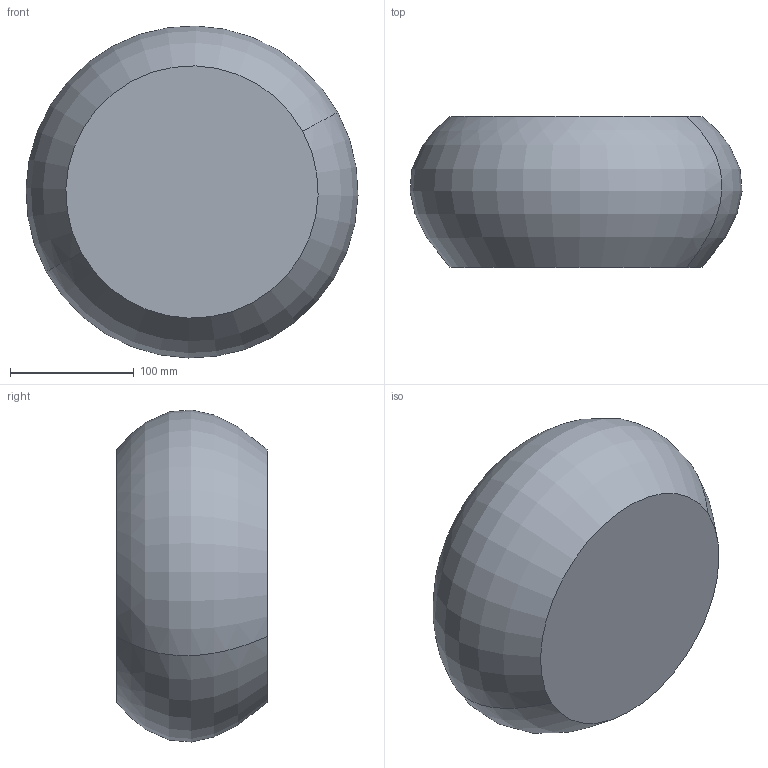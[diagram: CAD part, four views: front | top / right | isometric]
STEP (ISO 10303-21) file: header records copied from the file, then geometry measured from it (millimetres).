
FILE_DESCRIPTION(('CATIA V5 STEP Exchange'),'2;1');
FILE_NAME('C:\_Andres\UNIVERSIDAD\IQS\ASIGNATURAS\DAO\EXF\EXF-15161c\1original\Hoque_Tumanguil_Ej10-decora_v12.stp','2016-03-04T22:24:12+00:00',('none'),('none'),'CATIA Version 5 Release 20 SP 1 (IN-10)','CATIA V5 STEP AP203','none');
FILE_SCHEMA(('CONFIG_CONTROL_DESIGN'));
Length unit declared in the file: millimetre
Products named in the file (1): Hoque_Tumanguil_Ej10-decora_v12
Bounding box: 268.41 x 122 x 268.41 mm (x, y, z)
Volume: 5890513.7 mm3; surface area: 174779.5 mm2
Topology: 1 solids, 1 shells, 4 faces, 6 edges, 4 vertices
Faces by surface type: revolution 2, plane 2
Entity records: 166 total; most frequent: CARTESIAN_POINT 50, DIRECTION 12, ORIENTED_EDGE 12, AXIS2_PLACEMENT_3D 8, EDGE_CURVE 6, ADVANCED_FACE 4, B_SPLINE_CURVE_WITH_KNOTS 4, CC_DESIGN_PERSON_AND_ORGANIZATION_ASSIGNMENT 4
